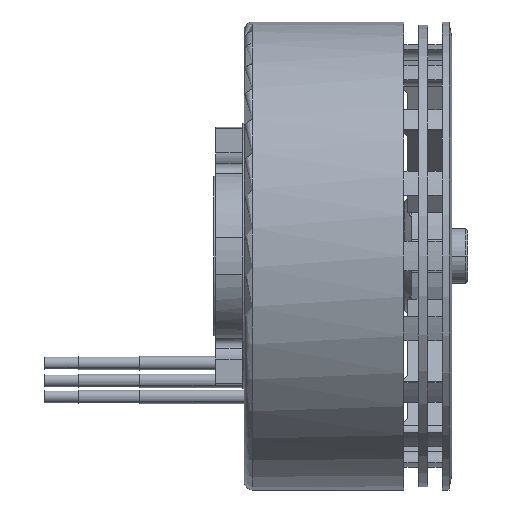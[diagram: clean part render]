
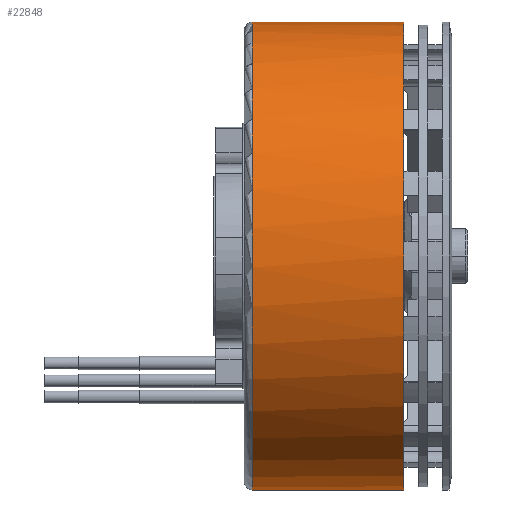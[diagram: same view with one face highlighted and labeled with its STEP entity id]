
A CAD part, left-side view. The second image highlights one B-rep face of the part: STEP entity #22848.
In plain terms, the highlighted cylindrical face has radius 34.45 mm (diameter 68.9 mm), a partial arc.
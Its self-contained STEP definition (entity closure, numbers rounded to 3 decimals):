
#908 = DIRECTION ( 'NONE',  ( 0., 0., 1. ) ) ;
#1129 = ORIENTED_EDGE ( 'NONE', *, *, #16788, .T. ) ;
#1619 = EDGE_LOOP ( 'NONE', ( #36273, #30105, #38255, #28845, #1129 ) ) ;
#2070 = DIRECTION ( 'NONE',  ( 0., 1., 0. ) ) ;
#2428 = CARTESIAN_POINT ( 'NONE',  ( 0., -27.7, -2.502 ) ) ;
#2900 = DIRECTION ( 'NONE',  ( 0., 0., -1. ) ) ;
#3361 = CARTESIAN_POINT ( 'NONE',  ( 0., -5.4, -71.402 ) ) ;
#4261 = VECTOR ( 'NONE', #7312, 1000. ) ;
#4480 = VERTEX_POINT ( 'NONE', #47387 ) ;
#5582 = CARTESIAN_POINT ( 'NONE',  ( -14.544, -5.4, -5.723 ) ) ;
#6119 = CIRCLE ( 'NONE', #27467, 34.45 ) ;
#7312 = DIRECTION ( 'NONE',  ( 0., 1., 0. ) ) ;
#7631 = DIRECTION ( 'NONE',  ( 0., -1., 0. ) ) ;
#10216 = VERTEX_POINT ( 'NONE', #18350 ) ;
#10357 = VERTEX_POINT ( 'NONE', #2428 ) ;
#11061 = EDGE_CURVE ( 'NONE', #4480, #32842, #39868, .T. ) ;
#14966 = CARTESIAN_POINT ( 'NONE',  ( 0., -4.17, -2.502 ) ) ;
#16788 = EDGE_CURVE ( 'NONE', #46593, #32842, #40705, .T. ) ;
#18350 = CARTESIAN_POINT ( 'NONE',  ( 0., -5.4, -2.502 ) ) ;
#18509 = DIRECTION ( 'NONE',  ( -0.422, 0., 0.907 ) ) ;
#18866 = AXIS2_PLACEMENT_3D ( 'NONE', #23899, #20176, #908 ) ;
#20176 = DIRECTION ( 'NONE',  ( 0., 1., 0. ) ) ;
#21562 = CARTESIAN_POINT ( 'NONE',  ( 0., -4.17, -71.402 ) ) ;
#22244 = DIRECTION ( 'NONE',  ( -0.422, 0., 0.907 ) ) ;
#22848 = ADVANCED_FACE ( 'NONE', ( #32011 ), #28322, .T. ) ;
#23899 = CARTESIAN_POINT ( 'NONE',  ( 0., -4.17, -36.952 ) ) ;
#24986 = EDGE_CURVE ( 'NONE', #10216, #46593, #33166, .T. ) ;
#25954 = VECTOR ( 'NONE', #2070, 1000. ) ;
#27467 = AXIS2_PLACEMENT_3D ( 'NONE', #43681, #28615, #2900 ) ;
#28322 = CYLINDRICAL_SURFACE ( 'NONE', #18866, 34.45 ) ;
#28615 = DIRECTION ( 'NONE',  ( 0., 1., 0. ) ) ;
#28845 = ORIENTED_EDGE ( 'NONE', *, *, #24986, .T. ) ;
#30105 = ORIENTED_EDGE ( 'NONE', *, *, #36664, .T. ) ;
#32011 = FACE_OUTER_BOUND ( 'NONE', #1619, .T. ) ;
#32819 = EDGE_CURVE ( 'NONE', #10357, #10216, #48081, .T. ) ;
#32842 = VERTEX_POINT ( 'NONE', #3361 ) ;
#33166 = CIRCLE ( 'NONE', #37934, 34.45 ) ;
#33803 = CARTESIAN_POINT ( 'NONE',  ( 0., -5.4, -36.952 ) ) ;
#36273 = ORIENTED_EDGE ( 'NONE', *, *, #11061, .F. ) ;
#36664 = EDGE_CURVE ( 'NONE', #4480, #10357, #6119, .T. ) ;
#37934 = AXIS2_PLACEMENT_3D ( 'NONE', #40786, #47701, #22244 ) ;
#38255 = ORIENTED_EDGE ( 'NONE', *, *, #32819, .T. ) ;
#38340 = AXIS2_PLACEMENT_3D ( 'NONE', #33803, #7631, #18509 ) ;
#39868 = LINE ( 'NONE', #21562, #25954 ) ;
#40705 = CIRCLE ( 'NONE', #38340, 34.45 ) ;
#40786 = CARTESIAN_POINT ( 'NONE',  ( 0., -5.4, -36.952 ) ) ;
#43681 = CARTESIAN_POINT ( 'NONE',  ( 0., -27.7, -36.952 ) ) ;
#46593 = VERTEX_POINT ( 'NONE', #5582 ) ;
#47387 = CARTESIAN_POINT ( 'NONE',  ( 0., -27.7, -71.402 ) ) ;
#47701 = DIRECTION ( 'NONE',  ( 0., -1., 0. ) ) ;
#48081 = LINE ( 'NONE', #14966, #4261 ) ;
